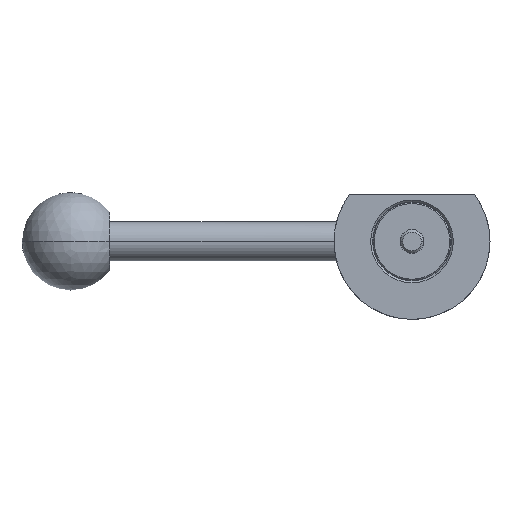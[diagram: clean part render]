
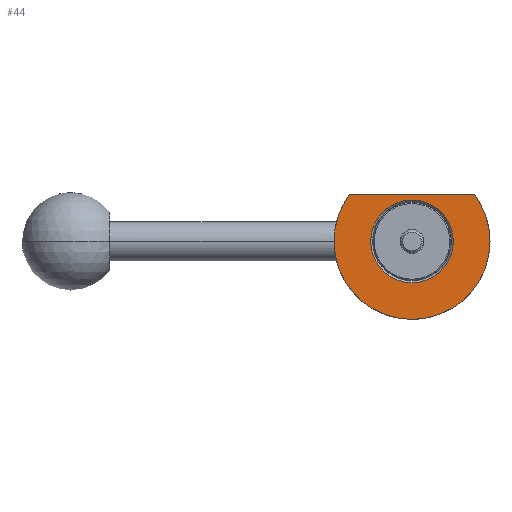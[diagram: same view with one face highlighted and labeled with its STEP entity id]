
A CAD part, front view. The second image highlights one B-rep face of the part: STEP entity #44.
In plain terms, the highlighted planar face has unit normal (0, -1, 0).
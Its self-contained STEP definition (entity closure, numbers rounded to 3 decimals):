
#44 = ADVANCED_FACE ( 'NONE', ( #127, #1677 ), #1377, .T. ) ;
#55 = CARTESIAN_POINT ( 'NONE',  ( 0., -10., 0. ) ) ;
#102 = EDGE_CURVE ( 'NONE', #120, #391, #1461, .T. ) ;
#110 = ORIENTED_EDGE ( 'NONE', *, *, #1899, .F. ) ;
#120 = VERTEX_POINT ( 'NONE', #665 ) ;
#127 = FACE_BOUND ( 'NONE', #1419, .T. ) ;
#160 = CIRCLE ( 'NONE', #1733, 20. ) ;
#182 = ORIENTED_EDGE ( 'NONE', *, *, #599, .F. ) ;
#215 = CARTESIAN_POINT ( 'NONE',  ( 20., -10., 0. ) ) ;
#346 = DIRECTION ( 'NONE',  ( 0., 1., 0. ) ) ;
#355 = VERTEX_POINT ( 'NONE', #215 ) ;
#391 = VERTEX_POINT ( 'NONE', #737 ) ;
#405 = DIRECTION ( 'NONE',  ( 0., 1., 0. ) ) ;
#412 = AXIS2_PLACEMENT_3D ( 'NONE', #905, #1367, #1103 ) ;
#515 = CARTESIAN_POINT ( 'NONE',  ( 0., -10., 0. ) ) ;
#537 = DIRECTION ( 'NONE',  ( -1., 0., 0. ) ) ;
#599 = EDGE_CURVE ( 'NONE', #355, #1784, #160, .T. ) ;
#641 = EDGE_CURVE ( 'NONE', #391, #120, #1861, .T. ) ;
#665 = CARTESIAN_POINT ( 'NONE',  ( -10.6, -10., 0. ) ) ;
#678 = DIRECTION ( 'NONE',  ( 0., 1., 0. ) ) ;
#731 = DIRECTION ( 'NONE',  ( -1., 0., 0. ) ) ;
#737 = CARTESIAN_POINT ( 'NONE',  ( 10.6, -10., 0. ) ) ;
#768 = ORIENTED_EDGE ( 'NONE', *, *, #102, .T. ) ;
#856 = AXIS2_PLACEMENT_3D ( 'NONE', #55, #1303, #537 ) ;
#864 = CARTESIAN_POINT ( 'NONE',  ( -16.001, -10., 11.999 ) ) ;
#905 = CARTESIAN_POINT ( 'NONE',  ( -10.6, -10., 0. ) ) ;
#985 = CARTESIAN_POINT ( 'NONE',  ( 0., -10., 0. ) ) ;
#1025 = ORIENTED_EDGE ( 'NONE', *, *, #641, .T. ) ;
#1045 = EDGE_CURVE ( 'NONE', #1140, #1642, #1102, .T. ) ;
#1095 = EDGE_CURVE ( 'NONE', #1784, #1642, #1336, .T. ) ;
#1102 = LINE ( 'NONE', #1725, #2016 ) ;
#1103 = DIRECTION ( 'NONE',  ( 1., 0., 0. ) ) ;
#1121 = EDGE_LOOP ( 'NONE', ( #110, #1665, #1273, #182 ) ) ;
#1140 = VERTEX_POINT ( 'NONE', #1360 ) ;
#1273 = ORIENTED_EDGE ( 'NONE', *, *, #1095, .F. ) ;
#1303 = DIRECTION ( 'NONE',  ( 0., 1., 0. ) ) ;
#1336 = CIRCLE ( 'NONE', #856, 20. ) ;
#1360 = CARTESIAN_POINT ( 'NONE',  ( 16.001, -10., 11.999 ) ) ;
#1367 = DIRECTION ( 'NONE',  ( 0., -1., 0. ) ) ;
#1377 = PLANE ( 'NONE',  #412 ) ;
#1404 = DIRECTION ( 'NONE',  ( -1., 0., 0. ) ) ;
#1419 = EDGE_LOOP ( 'NONE', ( #1025, #768 ) ) ;
#1427 = CARTESIAN_POINT ( 'NONE',  ( -20., -10., 0. ) ) ;
#1453 = DIRECTION ( 'NONE',  ( -1., 0., 0. ) ) ;
#1461 = CIRCLE ( 'NONE', #1728, 10.6 ) ;
#1488 = DIRECTION ( 'NONE',  ( 0., 1., 0. ) ) ;
#1521 = CIRCLE ( 'NONE', #1860, 20. ) ;
#1642 = VERTEX_POINT ( 'NONE', #864 ) ;
#1645 = CARTESIAN_POINT ( 'NONE',  ( 0., -10., 0. ) ) ;
#1665 = ORIENTED_EDGE ( 'NONE', *, *, #1045, .T. ) ;
#1668 = DIRECTION ( 'NONE',  ( -1., 0., 0. ) ) ;
#1677 = FACE_OUTER_BOUND ( 'NONE', #1121, .T. ) ;
#1725 = CARTESIAN_POINT ( 'NONE',  ( -10.6, -10., 11.999 ) ) ;
#1728 = AXIS2_PLACEMENT_3D ( 'NONE', #985, #346, #1453 ) ;
#1733 = AXIS2_PLACEMENT_3D ( 'NONE', #1971, #405, #731 ) ;
#1784 = VERTEX_POINT ( 'NONE', #1427 ) ;
#1827 = AXIS2_PLACEMENT_3D ( 'NONE', #1645, #1488, #1668 ) ;
#1860 = AXIS2_PLACEMENT_3D ( 'NONE', #515, #678, #1927 ) ;
#1861 = CIRCLE ( 'NONE', #1827, 10.6 ) ;
#1899 = EDGE_CURVE ( 'NONE', #1140, #355, #1521, .T. ) ;
#1927 = DIRECTION ( 'NONE',  ( -1., 0., 0. ) ) ;
#1971 = CARTESIAN_POINT ( 'NONE',  ( 0., -10., 0. ) ) ;
#2016 = VECTOR ( 'NONE', #1404, 1000. ) ;
